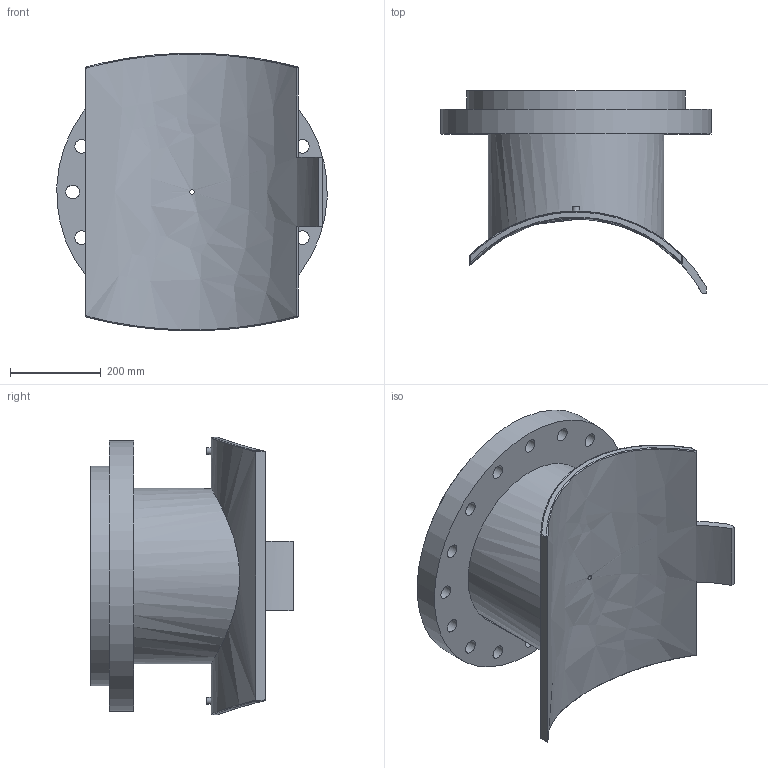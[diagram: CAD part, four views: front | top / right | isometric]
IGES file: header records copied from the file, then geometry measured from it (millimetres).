
Global section: file name: 495903630400T; native system: Autodesk Inventor 2019; preprocessor: unknown; author: KIM; date: 20240403.210605; units: millimetre
Bounding box: 594.2 x 445.37 x 609.99 mm (x, y, z)
Volume: 25162990 mm3; surface area: 1776186.7 mm2
Topology: 1 solids, 1 shells, 67 faces, 178 edges, 136 vertices
Faces by surface type: bspline 67
